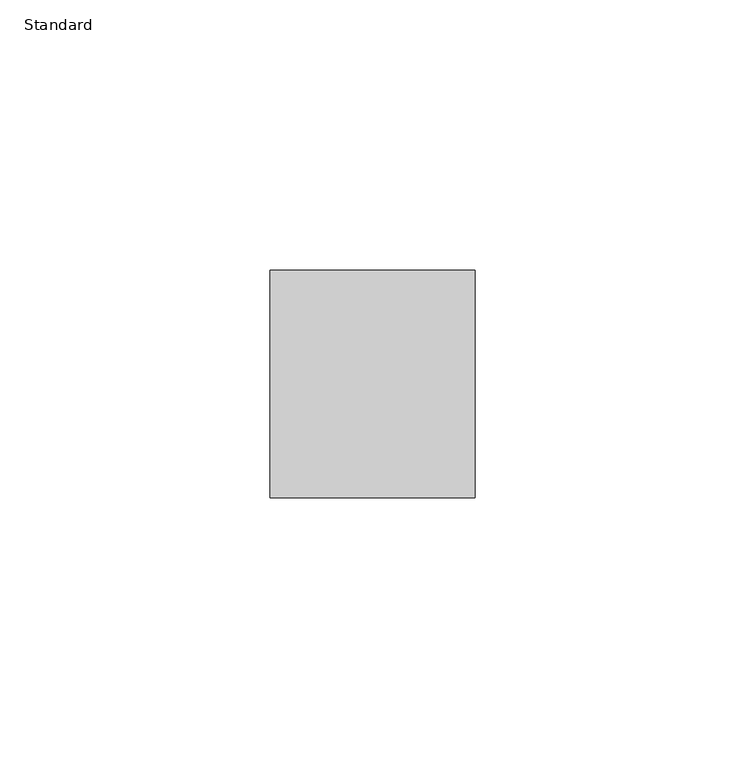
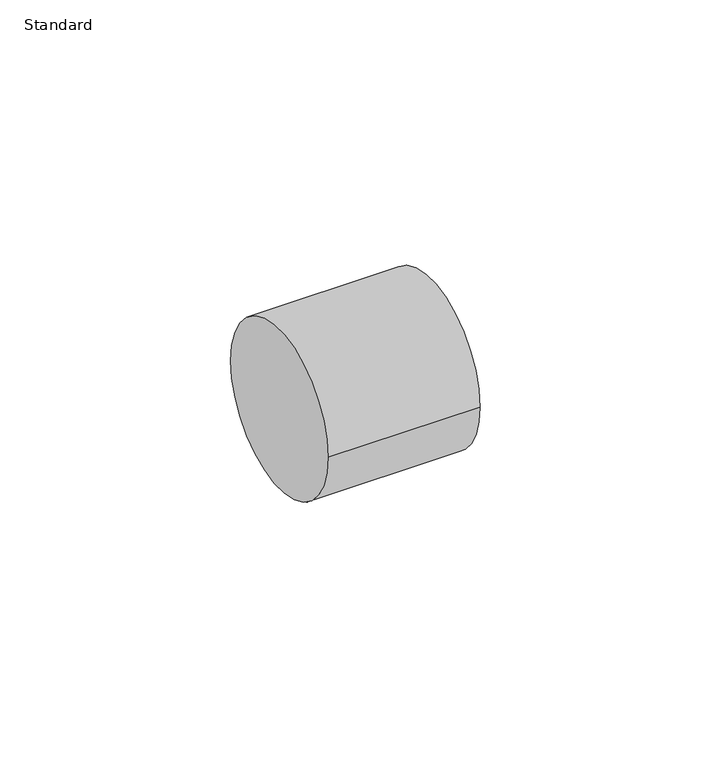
"""IFC4 building model written with IfcOpenShell, lengths in millimetres: pipe fitting geometry, Cap_Lubrizol_CPVC_FlowGuard_MX : Standard."""

from ifc_helpers import new_model, si_unit, point, frame, origin, origin_2d, place, context, project, spatial, circle_curve, trimmed, segment, composite_curve, outline, extrude, source, transform, mapped, element, save


def standard_93c21275(model_context):
    return source(origin(), model_context, "Body", "SweptSolid", [
        extrude(outline(composite_curve([segment(trimmed(circle_curve(origin_2d(), 21.1), [point((-21.1, 0.0))], [point((21.1, 0.0))], False, "CARTESIAN"), True, "CONTINUOUS"), segment(trimmed(circle_curve(origin_2d(), 21.1), [point((21.1, 0.0))], [point((-21.1, 0.0))], False, "CARTESIAN"), True, "CONTINUOUS")], self_intersect=False)), frame((0.0, 0.0, 0.0), z_axis=(1.0, 0.0, 0.0), x_axis=(0.0, 1.0, 0.0)), (0.0, 0.0, 1.0), 38.0),
    ])


if __name__ == "__main__":
    model = new_model("IFC4")
    model_context = context("Model", 3, world=origin())
    ifc_project = project(units=[si_unit("LENGTHUNIT", "METRE", prefix="MILLI")], contexts=[model_context])
    site = spatial("IfcSite", under=ifc_project)
    building = spatial("IfcBuilding", under=site)
    placement = place(None, origin())
    standard_shape = standard_93c21275(model_context)
    element("IfcPipeFitting", 1, ObjectType="Cap_Lubrizol_CPVC_FlowGuard_MX : Standard", at=placement, inside=building, context=model_context, shape_type="MappedRepresentation", body=[
        mapped(standard_shape, transform((0.0, 0.0, 0.0), x_axis=(1.0, 0.0, 0.0), y_axis=(0.0, 1.0, 0.0), z_axis=(0.0, 0.0, 1.0))),
    ])
    save(model, "model.ifc")
